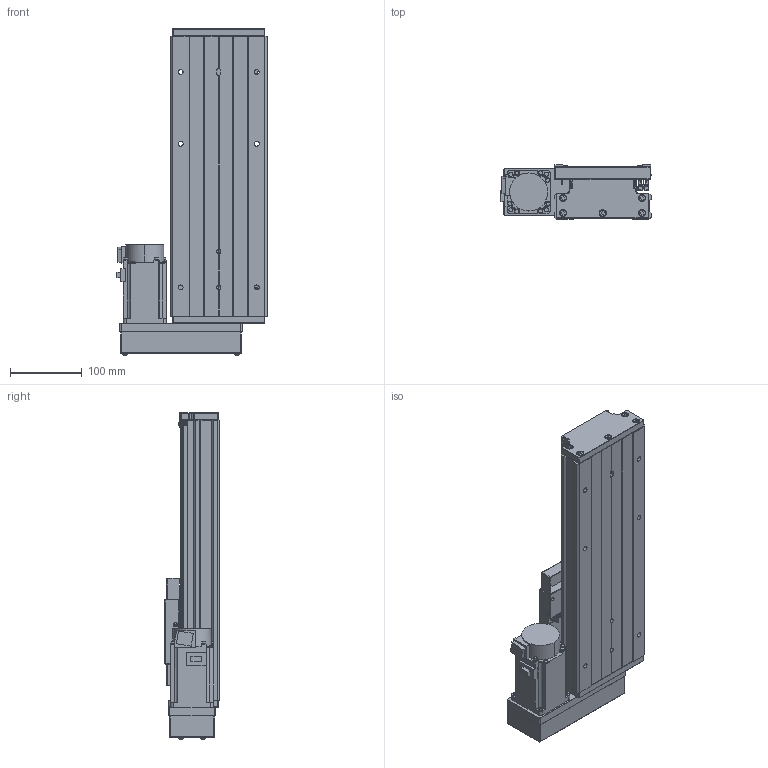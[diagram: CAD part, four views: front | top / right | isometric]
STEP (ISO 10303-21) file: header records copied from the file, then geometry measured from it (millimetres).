
FILE_DESCRIPTION (( 'STEP AP203' ), '1' );
FILE_NAME ('CTH130-200-BL-M40-C4.step', '2023-06-30T02:37:28', ( '微软用户' ), ( '微软中国' ), 'SwSTEP 2.0', 'SolidWorks 2020', '' );
FILE_SCHEMA (( 'CONFIG_CONTROL_DESIGN' ));
Length unit declared in the file: millimetre
Products named in the file (20): GBT77-2000 M3×3; GTH14-033; GB1155-6X6; CTH130-031; CTH130-200-BL-M40-C4; GBT70.1 M5℅16; GBT 70.2-M3¡Á5_M3¡Á6; GTH14-001_200; CTHA60-017; す晦芛蹟隊 M3℅5; CTH130-002_GTH14-002; EE_SX911P_R; HG-KN43J-S100; GB T308.1-2013-6.35; CTHA60-016; GBT 70.2-M4¡Á35_M4¡Á35; GTH14-004; GBT 70.1-M3℅5; GTH14-015-2_CTHA86-015-2; GTH14-005
Assembly tree (60 placements, depth 2):
  CTH130-200-BL-M40-C4
    GTH14-001_200
    CTH130-002_GTH14-002
    GB T308.1-2013-6.35  x2
    GTH14-004
    GTH14-005
    GB1155-6X6  x2
    GBT70.1 M5℅16  x10
    CTHA60-017  x3
    EE_SX911P_R  x3
    CTHA60-016  x2
    GBT 70.1-M3℅5  x6
    GBT77-2000 M3×3  x6
    CTH130-031
    GBT 70.2-M3¡Á5_M3¡Á6  x8
    す晦芛蹟隊 M3℅5  x6
    HG-KN43J-S100
    GBT 70.2-M4¡Á35_M4¡Á35  x4
    GTH14-015-2_CTHA86-015-2
    GTH14-033
Bounding box: 209.3 x 76 x 454.2 mm (x, y, z)
Volume: 2709018.9 mm3; surface area: 528180 mm2
Topology: 63 solids, 63 shells, 2415 faces, 5749 edges, 3553 vertices
Faces by surface type: plane 1306, cylinder 630, cone 299, torus 124, sphere 36, bspline 20
Entity records: 43308 total; most frequent: CARTESIAN_POINT 9747, DIRECTION 6282, ORIENTED_EDGE 6204, EDGE_CURVE 3102, AXIS2_PLACEMENT_3D 2132, VECTOR 2018, LINE 2018, VERTEX_POINT 1963
